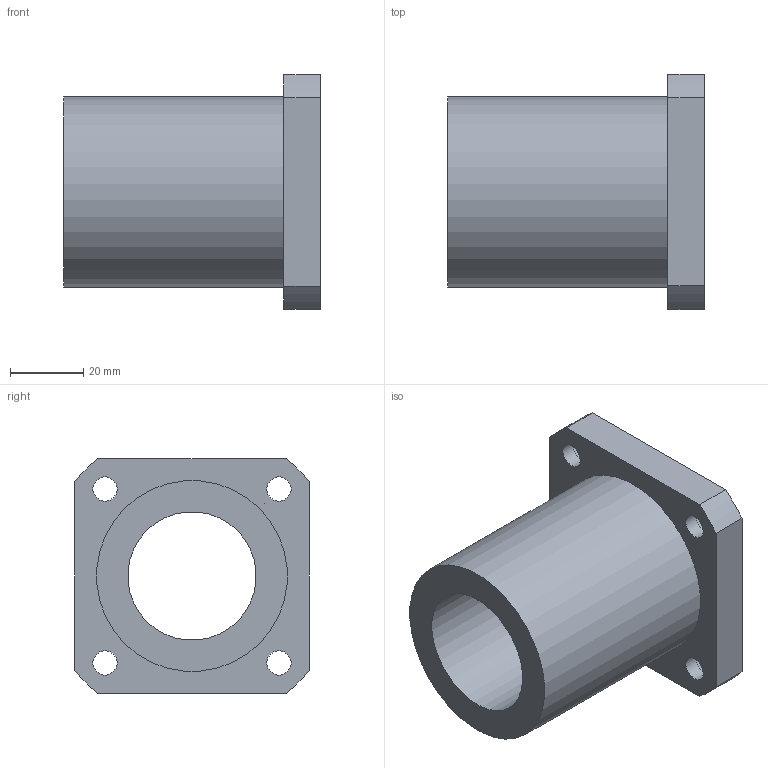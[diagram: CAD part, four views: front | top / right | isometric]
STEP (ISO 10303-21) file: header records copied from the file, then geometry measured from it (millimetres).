
FILE_DESCRIPTION(/* description */ (''),/* implementation_level */ '2;1');
FILE_NAME(/* name */ 'LMK35UU',/* time_stamp */ '2019-07-09T15:13:27+02:00',/* author */ ('VĂ©gh MĂˇtĂ©'),/* organization */ ('Bearing Kft'),/* preprocessor_version */ 'ST-DEVELOPER v16.7',/* originating_system */ 'DEX',/* authorisation */ $);
FILE_SCHEMA (('AUTOMOTIVE_DESIGN {1 0 10303 214 3 1 1}'));
Length unit declared in the file: millimetre
Products named in the file (1): LMK35UU
Bounding box: 70 x 64 x 64 mm (x, y, z)
Volume: 97421.4 mm3; surface area: 26956.7 mm2
Topology: 1 solids, 1 shells, 331 faces, 837 edges, 558 vertices
Faces by surface type: plane 254, bspline 61, cylinder 16
Full cylindrical faces by diameter (mm): 6.6 x4, 11 x4, 35 x1, 52 x1
Entity records: 13006 total; most frequent: CARTESIAN_POINT 5391, ORIENTED_EDGE 1652, DIRECTION 1278, EDGE_CURVE 826, LINE 672, VECTOR 672, VERTEX_POINT 558, EDGE_LOOP 402
